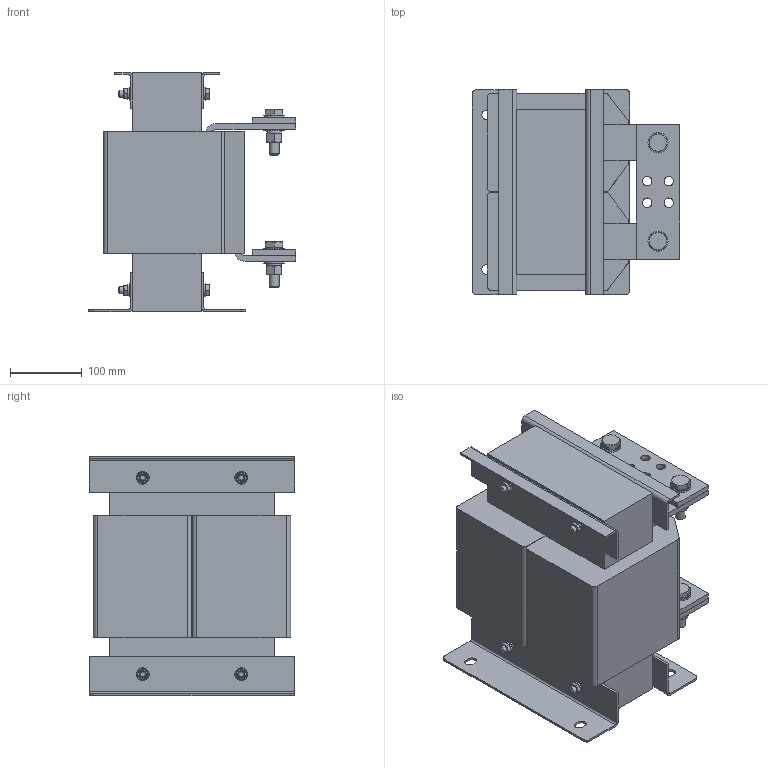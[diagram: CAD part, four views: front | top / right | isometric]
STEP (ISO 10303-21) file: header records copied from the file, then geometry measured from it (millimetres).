
FILE_DESCRIPTION(('STEP AP203'), '1');
FILE_NAME('DC-560-04 _ Äðîññåëü ïîñòîÿííîãî òîêà', '', ('UNSPECIFIED'), ('UNSPECIFIED'), 'C3D Converter', 'C3D Toolkit', '');
FILE_SCHEMA(('CONFIG_CONTROL_DESIGN'));
Length unit declared in the file: millimetre
Products named in the file (9): DC-560-04
Assembly tree (40 placements, depth 2):
  DC-560-04
    (unnamed)  x8
    (unnamed)  x4
    (unnamed)  x4
    (unnamed)  x4
    (unnamed)  x8
    (unnamed)  x4
    (unnamed)  x4
    (unnamed)  x4
Bounding box: 288 x 285 x 333 mm (x, y, z)
Volume: 13054037.5 mm3; surface area: 810930.9 mm2
Topology: 47 solids, 47 shells, 536 faces, 1184 edges, 752 vertices
Faces by surface type: plane 324, cylinder 136, cone 68, torus 8
Full cylindrical faces by diameter (mm): 8.376 x4, 10 x4, 10.5 x8, 11 x12, 11.835 x4, 13 x8, 14 x8, 15 x12, 18 x8, 24 x4, 28 x8
Entity records: 11666 total; most frequent: CARTESIAN_POINT 3039, DIRECTION 1292, ORIENTED_EDGE 1140, EDGE_CURVE 570, AXIS2_PLACEMENT_3D 479, VERTEX_POINT 402, EDGE_LOOP 380, LINE 334
